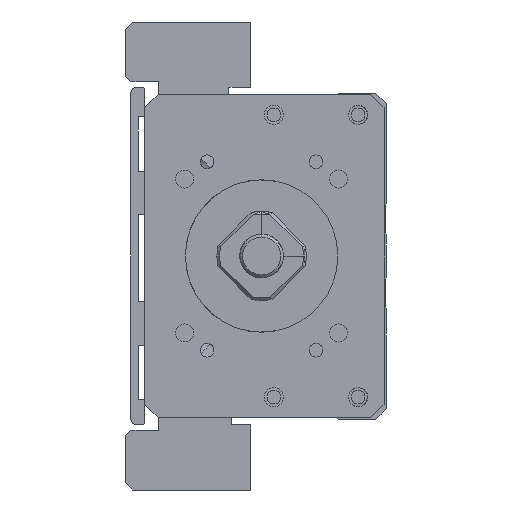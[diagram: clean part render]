
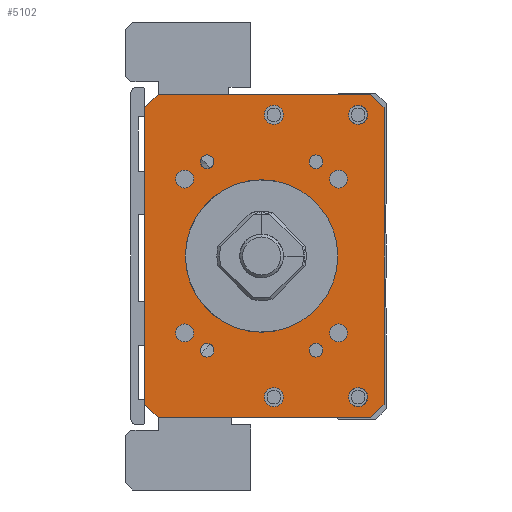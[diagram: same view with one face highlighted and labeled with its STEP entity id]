
A CAD part, left-side view. The second image highlights one B-rep face of the part: STEP entity #5102.
In plain terms, the highlighted planar face has unit normal (-1, 0, 0).
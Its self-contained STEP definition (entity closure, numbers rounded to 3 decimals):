
#5102=ADVANCED_FACE('',(#8103,#8104,#8105,#8106,#8107,#8108,#8109,#8110,
#8111,#8112,#8113,#8114,#8115,#8116),#5734,.F.);
#5734=PLANE('',#16014);
#6265=LINE('',#21034,#7206);
#6267=LINE('',#21058,#7208);
#6268=LINE('',#21060,#7209);
#6269=LINE('',#21062,#7210);
#6270=LINE('',#21064,#7211);
#6271=LINE('',#21066,#7212);
#6272=LINE('',#21068,#7213);
#6273=LINE('',#21070,#7214);
#7206=VECTOR('',#17668,1.);
#7208=VECTOR('',#17692,1.);
#7209=VECTOR('',#17693,1.);
#7210=VECTOR('',#17694,1.);
#7211=VECTOR('',#17695,1.);
#7212=VECTOR('',#17696,1.);
#7213=VECTOR('',#17697,1.);
#7214=VECTOR('',#17698,1.);
#8103=FACE_BOUND('',#8734,.T.);
#8104=FACE_BOUND('',#8735,.T.);
#8105=FACE_BOUND('',#8736,.T.);
#8106=FACE_BOUND('',#8737,.T.);
#8107=FACE_BOUND('',#8738,.T.);
#8108=FACE_BOUND('',#8739,.T.);
#8109=FACE_BOUND('',#8740,.T.);
#8110=FACE_BOUND('',#8741,.T.);
#8111=FACE_BOUND('',#8742,.T.);
#8112=FACE_BOUND('',#8743,.T.);
#8113=FACE_BOUND('',#8744,.T.);
#8114=FACE_BOUND('',#8745,.T.);
#8115=FACE_BOUND('',#8746,.T.);
#8116=FACE_BOUND('',#8747,.T.);
#8734=EDGE_LOOP('',(#10237));
#8735=EDGE_LOOP('',(#10238));
#8736=EDGE_LOOP('',(#10239));
#8737=EDGE_LOOP('',(#10240));
#8738=EDGE_LOOP('',(#10241));
#8739=EDGE_LOOP('',(#10242));
#8740=EDGE_LOOP('',(#10243));
#8741=EDGE_LOOP('',(#10244));
#8742=EDGE_LOOP('',(#10245));
#8743=EDGE_LOOP('',(#10246,#10247,#10248,#10249,#10250,#10251,#10252,#10253));
#8744=EDGE_LOOP('',(#10254));
#8745=EDGE_LOOP('',(#10255));
#8746=EDGE_LOOP('',(#10256));
#8747=EDGE_LOOP('',(#10257));
#10237=ORIENTED_EDGE('',*,*,#14101,.F.);
#10238=ORIENTED_EDGE('',*,*,#14102,.F.);
#10239=ORIENTED_EDGE('',*,*,#14103,.F.);
#10240=ORIENTED_EDGE('',*,*,#14104,.F.);
#10241=ORIENTED_EDGE('',*,*,#14105,.F.);
#10242=ORIENTED_EDGE('',*,*,#14106,.T.);
#10243=ORIENTED_EDGE('',*,*,#14107,.F.);
#10244=ORIENTED_EDGE('',*,*,#14108,.F.);
#10245=ORIENTED_EDGE('',*,*,#14109,.F.);
#10246=ORIENTED_EDGE('',*,*,#14098,.T.);
#10247=ORIENTED_EDGE('',*,*,#14110,.T.);
#10248=ORIENTED_EDGE('',*,*,#14111,.F.);
#10249=ORIENTED_EDGE('',*,*,#14112,.T.);
#10250=ORIENTED_EDGE('',*,*,#14113,.F.);
#10251=ORIENTED_EDGE('',*,*,#14114,.T.);
#10252=ORIENTED_EDGE('',*,*,#14115,.T.);
#10253=ORIENTED_EDGE('',*,*,#14116,.T.);
#10254=ORIENTED_EDGE('',*,*,#14117,.F.);
#10255=ORIENTED_EDGE('',*,*,#14118,.F.);
#10256=ORIENTED_EDGE('',*,*,#14119,.F.);
#10257=ORIENTED_EDGE('',*,*,#14078,.F.);
#12871=VERTEX_POINT('',#20973);
#12891=VERTEX_POINT('',#21033);
#12892=VERTEX_POINT('',#21035);
#12894=VERTEX_POINT('',#21041);
#12895=VERTEX_POINT('',#21043);
#12896=VERTEX_POINT('',#21045);
#12897=VERTEX_POINT('',#21047);
#12898=VERTEX_POINT('',#21049);
#12899=VERTEX_POINT('',#21051);
#12900=VERTEX_POINT('',#21053);
#12901=VERTEX_POINT('',#21055);
#12902=VERTEX_POINT('',#21057);
#12903=VERTEX_POINT('',#21059);
#12904=VERTEX_POINT('',#21061);
#12905=VERTEX_POINT('',#21063);
#12906=VERTEX_POINT('',#21065);
#12907=VERTEX_POINT('',#21067);
#12908=VERTEX_POINT('',#21069);
#12909=VERTEX_POINT('',#21072);
#12910=VERTEX_POINT('',#21074);
#12911=VERTEX_POINT('',#21076);
#14078=EDGE_CURVE('',#12871,#12871,#15395,.T.);
#14098=EDGE_CURVE('',#12892,#12891,#6265,.T.);
#14101=EDGE_CURVE('',#12894,#12894,#15404,.T.);
#14102=EDGE_CURVE('',#12895,#12895,#15405,.T.);
#14103=EDGE_CURVE('',#12896,#12896,#15406,.T.);
#14104=EDGE_CURVE('',#12897,#12897,#15407,.T.);
#14105=EDGE_CURVE('',#12898,#12898,#15408,.T.);
#14106=EDGE_CURVE('',#12899,#12899,#15409,.T.);
#14107=EDGE_CURVE('',#12900,#12900,#15410,.T.);
#14108=EDGE_CURVE('',#12901,#12901,#15411,.T.);
#14109=EDGE_CURVE('',#12902,#12902,#15412,.T.);
#14110=EDGE_CURVE('',#12891,#12903,#6267,.T.);
#14111=EDGE_CURVE('',#12904,#12903,#6268,.T.);
#14112=EDGE_CURVE('',#12904,#12905,#6269,.T.);
#14113=EDGE_CURVE('',#12906,#12905,#6270,.T.);
#14114=EDGE_CURVE('',#12906,#12907,#6271,.T.);
#14115=EDGE_CURVE('',#12907,#12908,#6272,.T.);
#14116=EDGE_CURVE('',#12908,#12892,#6273,.T.);
#14117=EDGE_CURVE('',#12909,#12909,#15413,.T.);
#14118=EDGE_CURVE('',#12910,#12910,#15414,.T.);
#14119=EDGE_CURVE('',#12911,#12911,#15415,.T.);
#15395=CIRCLE('',#15991,14.);
#15404=CIRCLE('',#16002,1.65);
#15405=CIRCLE('',#16003,1.65);
#15406=CIRCLE('',#16004,1.65);
#15407=CIRCLE('',#16005,1.65);
#15408=CIRCLE('',#16006,1.25);
#15409=CIRCLE('',#16007,1.75);
#15410=CIRCLE('',#16008,1.25);
#15411=CIRCLE('',#16009,1.75);
#15412=CIRCLE('',#16010,1.25);
#15413=CIRCLE('',#16011,1.75);
#15414=CIRCLE('',#16012,1.75);
#15415=CIRCLE('',#16013,1.25);
#15991=AXIS2_PLACEMENT_3D('',#20972,#17642,#17643);
#16002=AXIS2_PLACEMENT_3D('',#21040,#17674,#17675);
#16003=AXIS2_PLACEMENT_3D('',#21042,#17676,#17677);
#16004=AXIS2_PLACEMENT_3D('',#21044,#17678,#17679);
#16005=AXIS2_PLACEMENT_3D('',#21046,#17680,#17681);
#16006=AXIS2_PLACEMENT_3D('',#21048,#17682,#17683);
#16007=AXIS2_PLACEMENT_3D('',#21050,#17684,#17685);
#16008=AXIS2_PLACEMENT_3D('',#21052,#17686,#17687);
#16009=AXIS2_PLACEMENT_3D('',#21054,#17688,#17689);
#16010=AXIS2_PLACEMENT_3D('',#21056,#17690,#17691);
#16011=AXIS2_PLACEMENT_3D('',#21071,#17699,#17700);
#16012=AXIS2_PLACEMENT_3D('',#21073,#17701,#17702);
#16013=AXIS2_PLACEMENT_3D('',#21075,#17703,#17704);
#16014=AXIS2_PLACEMENT_3D('',#21077,#17705,#17706);
#17642=DIRECTION('',(-1.,0.,0.));
#17643=DIRECTION('',(0.,1.,0.));
#17668=DIRECTION('',(0.,0.,-1.));
#17674=DIRECTION('',(-1.,0.,0.));
#17675=DIRECTION('',(0.,0.,1.));
#17676=DIRECTION('',(-1.,0.,0.));
#17677=DIRECTION('',(0.,0.,1.));
#17678=DIRECTION('',(-1.,0.,0.));
#17679=DIRECTION('',(0.,0.,1.));
#17680=DIRECTION('',(-1.,0.,0.));
#17681=DIRECTION('',(0.,0.,1.));
#17682=DIRECTION('',(-1.,0.,0.));
#17683=DIRECTION('',(0.,1.,0.));
#17684=DIRECTION('',(1.,0.,0.));
#17685=DIRECTION('',(0.,0.,1.));
#17686=DIRECTION('',(-1.,0.,0.));
#17687=DIRECTION('',(0.,1.,0.));
#17688=DIRECTION('',(-1.,0.,0.));
#17689=DIRECTION('',(0.,0.,1.));
#17690=DIRECTION('',(-1.,0.,0.));
#17691=DIRECTION('',(0.,1.,0.));
#17692=DIRECTION('',(0.,-0.707,-0.707));
#17693=DIRECTION('',(0.,1.,0.));
#17694=DIRECTION('',(0.,-0.707,0.707));
#17695=DIRECTION('',(0.,0.,-1.));
#17696=DIRECTION('',(0.,0.707,0.707));
#17697=DIRECTION('',(0.,1.,0.));
#17698=DIRECTION('',(0.,0.707,-0.707));
#17699=DIRECTION('',(-1.,0.,0.));
#17700=DIRECTION('',(0.,0.,1.));
#17701=DIRECTION('',(-1.,0.,0.));
#17702=DIRECTION('',(0.,0.,1.));
#17703=DIRECTION('',(-1.,0.,0.));
#17704=DIRECTION('',(0.,1.,0.));
#17705=DIRECTION('',(1.,0.,0.));
#17706=DIRECTION('',(0.,1.,0.));
#20972=CARTESIAN_POINT('',(-211.,0.,-200.));
#20973=CARTESIAN_POINT('',(-211.,14.,-200.));
#21033=CARTESIAN_POINT('',(-211.,21.499,-227.25));
#21034=CARTESIAN_POINT('',(-211.,21.499,-170.25));
#21035=CARTESIAN_POINT('',(-211.,21.499,-172.75));
#21040=CARTESIAN_POINT('',(-211.,14.142,-185.858));
#21041=CARTESIAN_POINT('',(-211.,14.142,-184.208));
#21042=CARTESIAN_POINT('',(-211.,-14.142,-185.858));
#21043=CARTESIAN_POINT('',(-211.,-14.142,-184.208));
#21044=CARTESIAN_POINT('',(-211.,14.142,-214.142));
#21045=CARTESIAN_POINT('',(-211.,14.142,-212.492));
#21046=CARTESIAN_POINT('',(-211.,-14.142,-214.142));
#21047=CARTESIAN_POINT('',(-211.,-14.142,-212.492));
#21048=CARTESIAN_POINT('',(-211.,-10.,-217.321));
#21049=CARTESIAN_POINT('',(-211.,-8.75,-217.321));
#21050=CARTESIAN_POINT('',(-211.,-2.25,-225.936));
#21051=CARTESIAN_POINT('',(-211.,-2.25,-224.186));
#21052=CARTESIAN_POINT('',(-211.,10.,-182.679));
#21053=CARTESIAN_POINT('',(-211.,11.25,-182.679));
#21054=CARTESIAN_POINT('',(-211.,-2.25,-174.064));
#21055=CARTESIAN_POINT('',(-211.,-2.25,-172.314));
#21056=CARTESIAN_POINT('',(-211.,10.,-217.321));
#21057=CARTESIAN_POINT('',(-211.,11.25,-217.321));
#21058=CARTESIAN_POINT('',(-211.,18.999,-229.75));
#21059=CARTESIAN_POINT('',(-211.,18.999,-229.75));
#21060=CARTESIAN_POINT('',(-211.,-22.501,-229.75));
#21061=CARTESIAN_POINT('',(-211.,-20.001,-229.75));
#21062=CARTESIAN_POINT('',(-211.,-22.501,-227.25));
#21063=CARTESIAN_POINT('',(-211.,-22.501,-227.25));
#21064=CARTESIAN_POINT('',(-211.,-22.501,-170.25));
#21065=CARTESIAN_POINT('',(-211.,-22.501,-172.75));
#21066=CARTESIAN_POINT('',(-211.,-22.501,-172.75));
#21067=CARTESIAN_POINT('',(-211.,-20.001,-170.25));
#21068=CARTESIAN_POINT('',(-211.,-22.501,-170.25));
#21069=CARTESIAN_POINT('',(-211.,18.999,-170.25));
#21070=CARTESIAN_POINT('',(-211.,18.999,-170.25));
#21071=CARTESIAN_POINT('',(-211.,-17.75,-174.064));
#21072=CARTESIAN_POINT('',(-211.,-17.75,-172.314));
#21073=CARTESIAN_POINT('',(-211.,-17.75,-225.936));
#21074=CARTESIAN_POINT('',(-211.,-17.75,-224.186));
#21075=CARTESIAN_POINT('',(-211.,-10.,-182.679));
#21076=CARTESIAN_POINT('',(-211.,-8.75,-182.679));
#21077=CARTESIAN_POINT('',(-211.,-22.501,-170.25));
